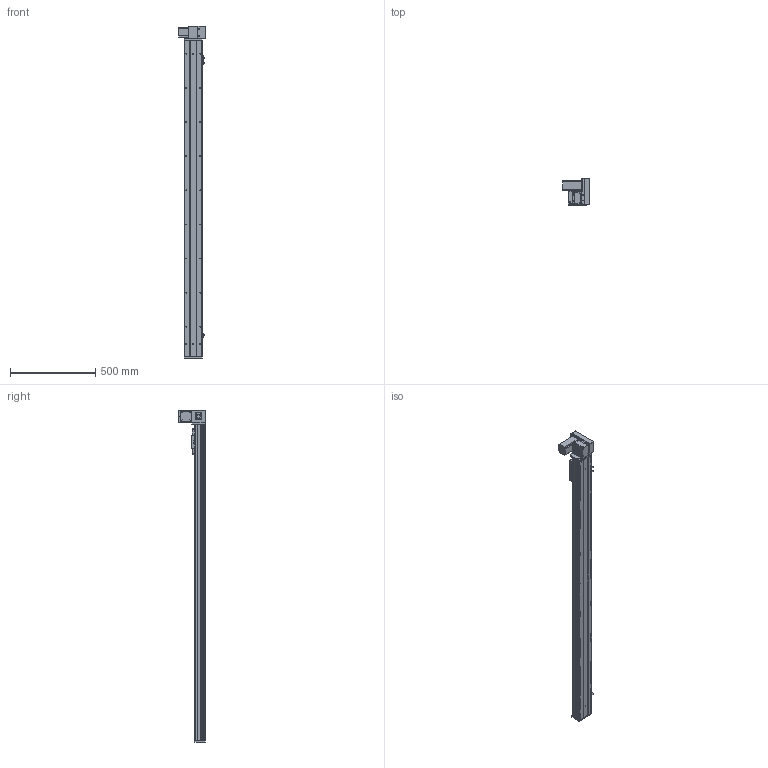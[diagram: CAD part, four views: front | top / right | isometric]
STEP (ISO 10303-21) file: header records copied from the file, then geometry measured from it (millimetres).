
FILE_DESCRIPTION (( 'STEP AP203' ), '1' );
FILE_NAME ('Y10CB-D90-S1600-UR-P400W.STEP', '2020-02-16T03:51:45', ( '微软用户' ), ( '微软中国' ), 'SwSTEP 2.0', 'SolidWorks 2017', '' );
FILE_SCHEMA (( 'CONFIG_CONTROL_DESIGN' ));
Length unit declared in the file: millimetre
Products named in the file (18): Y10B--々湍喘謫眊--666; 0B-埴倛裔啣; Y10B-々湍喘謫眊楊擘啣--; Y10B-耜蚾蟀諉啣----; 10CB-詩湍-; 00B-俋欶BM--; Y10CB- 掛极耜裔啣-毀---; Y10CB-D90-S1600-UR-P400W; Y10C---詩湍揤啣; 10CB9-掛极; 10CB-耜裔; 0B-萇儂楊擘啣; Y135C-陔俋离換覜結え-; san松下电机400不带刹车----; 0CB-雄赽釱---; Y100-135俋离換覜ん--; 0B-源倛裔啣; 0Cb-俋欶---
Assembly tree (21 placements, depth 2):
  Y10CB-D90-S1600-UR-P400W
    0CB-雄赽釱---
    0Cb-俋欶---
    Y10B-々湍喘謫眊楊擘啣--
    0B-萇儂楊擘啣
    san松下电机400不带刹车----
    0B-源倛裔啣
    0B-埴倛裔啣
    10CB-詩湍-
    Y10CB- 掛极耜裔啣-毀---  x2
    Y10C---詩湍揤啣  x2
    10CB9-掛极
    10CB-耜裔
    Y135C-陔俋离換覜結え-
    Y100-135俋离換覜ん--  x3
    Y10B--々湍喘謫眊--666
    Y10B-耜蚾蟀諉啣----
    00B-俋欶BM--
Bounding box: 157 x 155.5 x 1946 mm (x, y, z)
Volume: 4182857.3 mm3; surface area: 1939796 mm2
Topology: 21 solids, 21 shells, 1026 faces, 2763 edges, 1802 vertices
Faces by surface type: cylinder 519, plane 483, cone 24
Entity records: 32412 total; most frequent: CARTESIAN_POINT 5913, DIRECTION 5202, ORIENTED_EDGE 4996, EDGE_CURVE 2498, AXIS2_PLACEMENT_3D 1861, VERTEX_POINT 1628, LINE 1480, VECTOR 1480
